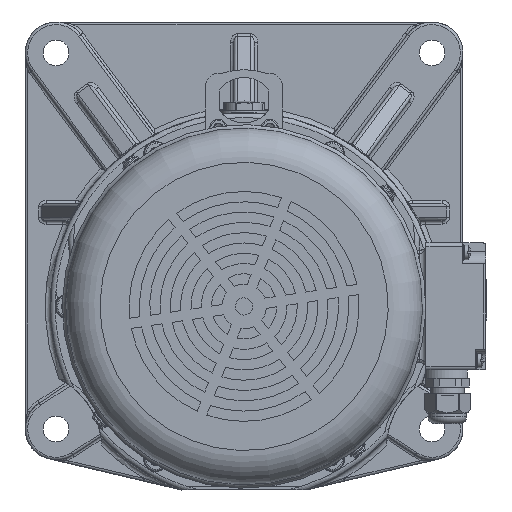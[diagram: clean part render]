
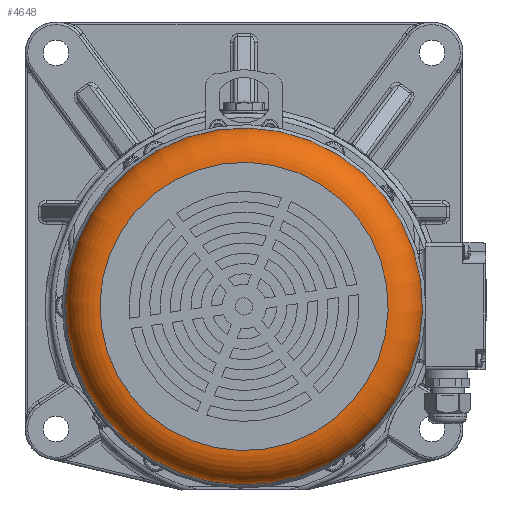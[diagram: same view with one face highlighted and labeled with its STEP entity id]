
A CAD part, left-side view. The second image highlights one B-rep face of the part: STEP entity #4648.
In plain terms, the highlighted toroidal (fillet/blend) face has major radius 84 mm and minor radius 20 mm.
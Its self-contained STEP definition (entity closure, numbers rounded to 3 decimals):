
#824=TOROIDAL_SURFACE('',#47442,84.,20.);
#2259=FACE_BOUND('',#11104,.T.);
#2260=FACE_BOUND('',#11105,.T.);
#4648=ADVANCED_FACE('',(#2259,#2260),#824,.T.);
#11104=EDGE_LOOP('',(#27595));
#11105=EDGE_LOOP('',(#27596));
#27595=ORIENTED_EDGE('',*,*,#38797,.F.);
#27596=ORIENTED_EDGE('',*,*,#36732,.T.);
#31583=VERTEX_POINT('',#71535);
#32928=VERTEX_POINT('',#75779);
#36732=EDGE_CURVE('',#31583,#31583,#42031,.T.);
#38797=EDGE_CURVE('',#32928,#32928,#42957,.T.);
#42031=CIRCLE('',#45697,84.);
#42957=CIRCLE('',#47440,104.);
#45697=AXIS2_PLACEMENT_3D('',#71534,#54303,#54304);
#47440=AXIS2_PLACEMENT_3D('',#75778,#58927,#58928);
#47442=AXIS2_PLACEMENT_3D('',#75781,#58931,#58932);
#54303=DIRECTION('',(1.,0.,0.));
#54304=DIRECTION('',(0.,-0.622,-0.783));
#58927=DIRECTION('',(1.,0.,0.));
#58928=DIRECTION('',(0.,-0.622,-0.783));
#58931=DIRECTION('',(1.,0.,0.));
#58932=DIRECTION('',(0.,-0.622,-0.783));
#71534=CARTESIAN_POINT('',(-442.5,0.,0.));
#71535=CARTESIAN_POINT('',(-442.5,-52.257,-65.767));
#75778=CARTESIAN_POINT('',(-422.5,0.,0.));
#75779=CARTESIAN_POINT('',(-422.5,-64.699,-81.425));
#75781=CARTESIAN_POINT('',(-422.5,0.,0.));
